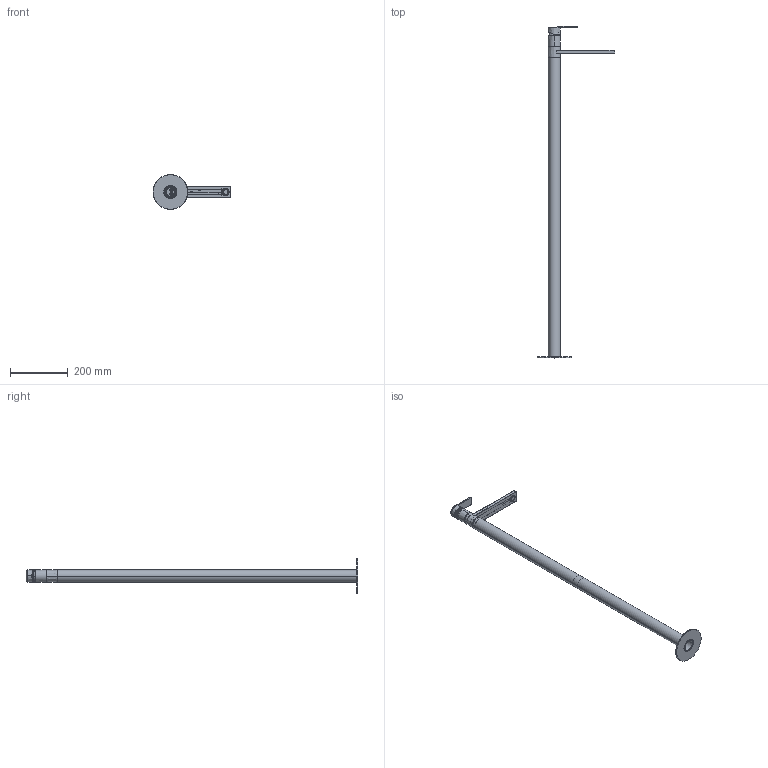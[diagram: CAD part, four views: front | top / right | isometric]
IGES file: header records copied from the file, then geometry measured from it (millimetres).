
Start section:  PTC IGES file: 47595_sw0001.igs
Global section: file name: 47595_sw0001.igs; native system: Creo Parametric by PTC Inc.; preprocessor: 2022014; author: volponeff; organization: Unknown; date: 20240221.092015; units: millimetre
Bounding box: 269.2 x 1147.3 x 120 mm (x, y, z)
Surface area: 372318.2 mm2 (no closed solid volume)
Topology: 0 solids, 0 shells, 893 faces, 4910 edges, 4896 vertices
Faces by surface type: revolution 549, bspline 344
